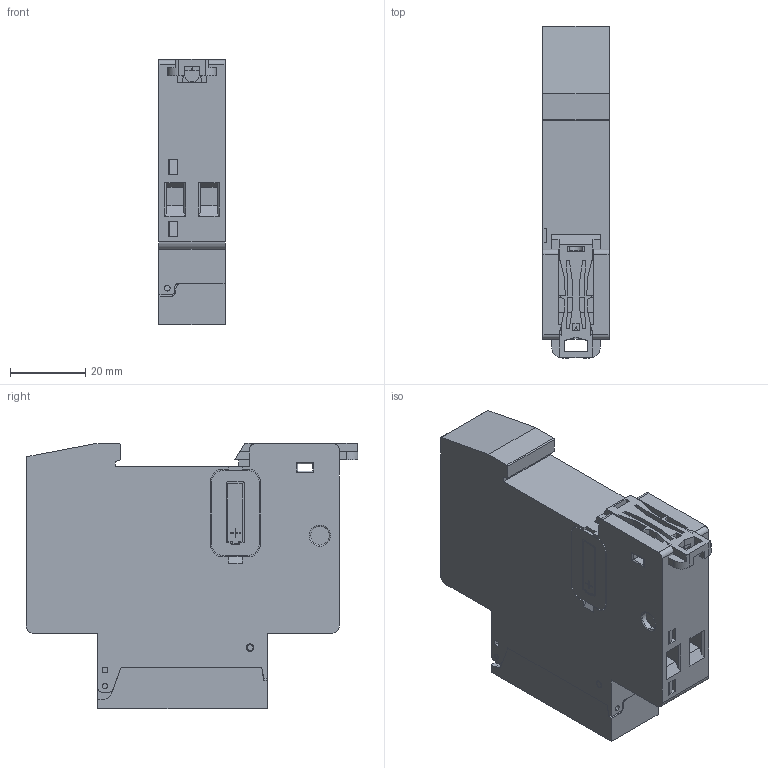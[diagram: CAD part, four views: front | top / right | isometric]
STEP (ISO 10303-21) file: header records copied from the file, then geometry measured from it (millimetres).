
FILE_DESCRIPTION (( 'STEP AP214' ), '1' );
FILE_NAME ('MA_-A16-100-MINI__upr.step', '2014-09-04T10:46:19', ( '' ), ( '' ), 'SwSTEP 2.0', 'SolidWorks 2011', '' );
FILE_SCHEMA (( 'AUTOMOTIVE_DESIGN' ));
Length unit declared in the file: millimetre
Products named in the file (1): MA_-A16-100-MINI__upr
Bounding box: 17.5 x 88 x 70.4 mm (x, y, z)
Volume: 76823 mm3; surface area: 21619.6 mm2
Topology: 3 solids, 3 shells, 877 faces, 2481 edges, 1622 vertices
Faces by surface type: plane 709, cylinder 137, torus 20, sphere 8, cone 3
Entity records: 37933 total; most frequent: CARTESIAN_POINT 5244, ORIENTED_EDGE 4962, DIRECTION 4629, EDGE_CURVE 2481, VECTOR 1919, LINE 1919, VERTEX_POINT 1622, AXIS2_PLACEMENT_3D 1355
